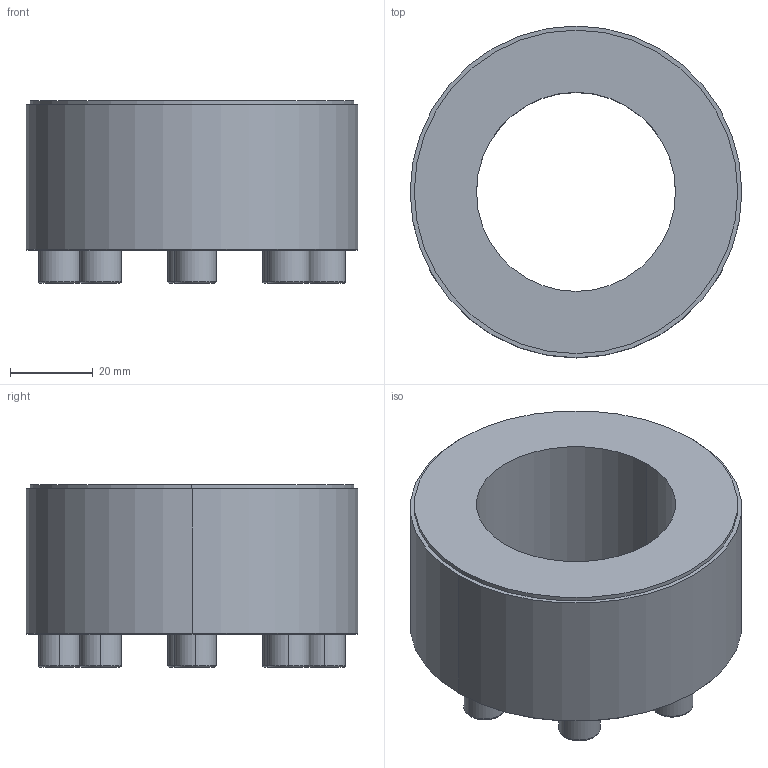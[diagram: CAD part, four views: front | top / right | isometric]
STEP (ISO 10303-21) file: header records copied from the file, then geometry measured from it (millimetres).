
FILE_DESCRIPTION (( 'STEP AP203' ), '1' );
FILE_NAME ('PL-B 48-80.STEP', '2021-10-22T07:48:17', ( '' ), ( '' ), 'SwSTEP 2.0', 'SolidWorks 2018', '' );
FILE_SCHEMA (( 'CONFIG_CONTROL_DESIGN' ));
Length unit declared in the file: millimetre
Products named in the file (1): PL-B 48-80
Bounding box: 80 x 80 x 44 mm (x, y, z)
Volume: 119571.1 mm3; surface area: 23477.9 mm2
Topology: 1 solids, 1 shells, 109 faces, 250 edges, 160 vertices
Faces by surface type: plane 67, cylinder 22, torus 16, cone 4
Entity records: 3145 total; most frequent: DIRECTION 550, CARTESIAN_POINT 520, ORIENTED_EDGE 500, EDGE_CURVE 250, AXIS2_PLACEMENT_3D 190, VECTOR 170, LINE 170, VERTEX_POINT 160
